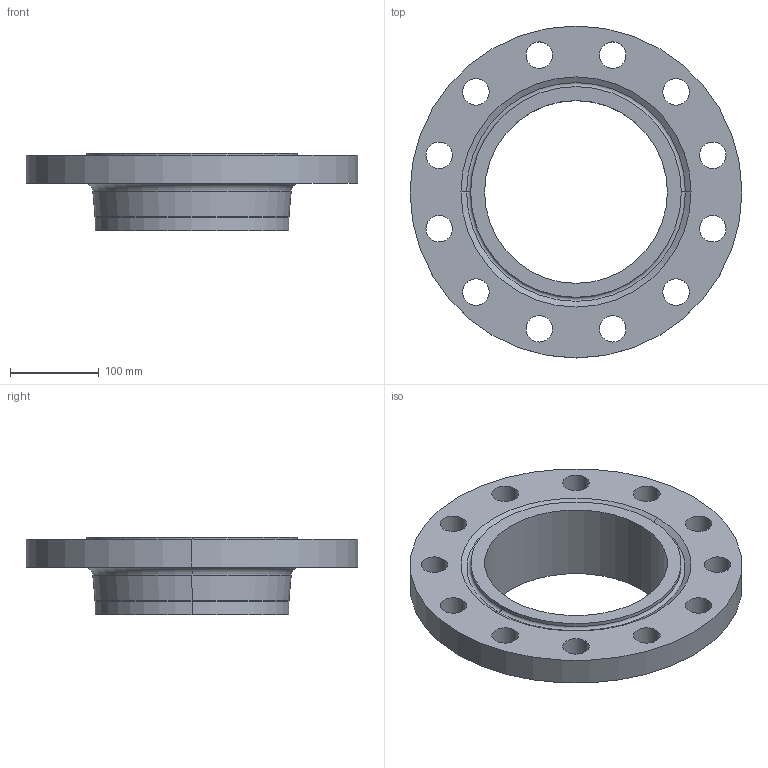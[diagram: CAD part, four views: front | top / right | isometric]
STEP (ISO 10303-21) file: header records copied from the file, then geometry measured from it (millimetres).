
FILE_DESCRIPTION (( 'STEP AP214' ), '1' );
FILE_NAME ('PN40 DN200 Type 11 - Type H Face.STEP', '2019-01-05T02:17:46', ( '' ), ( '' ), 'SwSTEP 2.0', 'SolidWorks 2019', '' );
FILE_SCHEMA (( 'AUTOMOTIVE_DESIGN' ));
Length unit declared in the file: millimetre
Products named in the file (1): PN40 DN200 Type 11 - Type H Face
Bounding box: 375 x 375 x 88 mm (x, y, z)
Volume: 2443721.4 mm3; surface area: 304974 mm2
Topology: 1 solids, 1 shells, 46 faces, 116 edges, 74 vertices
Faces by surface type: cylinder 32, torus 6, cone 4, plane 4
Entity records: 1506 total; most frequent: DIRECTION 290, CARTESIAN_POINT 237, ORIENTED_EDGE 232, AXIS2_PLACEMENT_3D 127, EDGE_CURVE 116, CIRCLE 80, EDGE_LOOP 74, VERTEX_POINT 74
